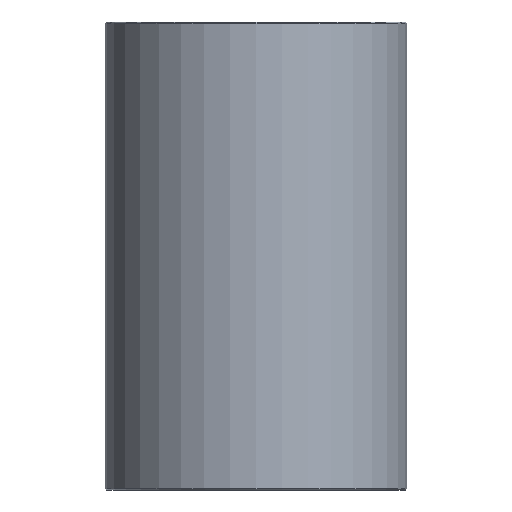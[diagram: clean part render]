
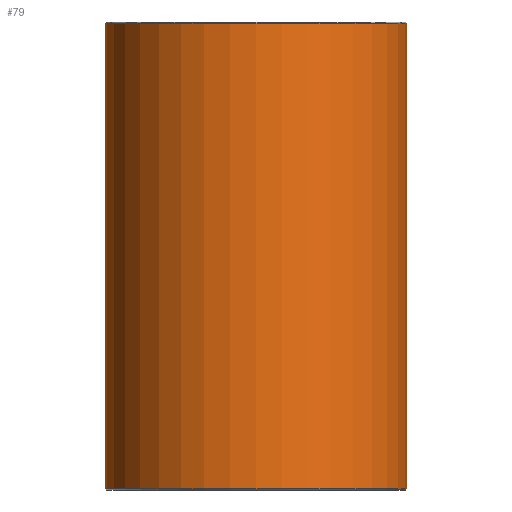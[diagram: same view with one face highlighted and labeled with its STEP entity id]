
A CAD part, front view. The second image highlights one B-rep face of the part: STEP entity #79.
In plain terms, the highlighted cylindrical face has radius 29 mm (diameter 58 mm), a full revolution.
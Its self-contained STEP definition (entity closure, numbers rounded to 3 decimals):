
#79=ADVANCED_FACE('',(#96,#97),#98,.T.);
#96=FACE_OUTER_BOUND('',#120,.T.);
#97=FACE_OUTER_BOUND('',#121,.T.);
#98=CYLINDRICAL_SURFACE('',#122,29.0);
#120=EDGE_LOOP('',(#152));
#121=EDGE_LOOP('',(#153));
#122=AXIS2_PLACEMENT_3D('',#154,#155,#156);
#152=ORIENTED_EDGE('',*,*,#178,.T.);
#153=ORIENTED_EDGE('',*,*,#177,.T.);
#154=CARTESIAN_POINT('',(0.0,0.0,90.0));
#155=DIRECTION('',(0.0,0.0,-1.0));
#156=DIRECTION('',(-1.0,0.0,0.0));
#177=EDGE_CURVE('',#190,#190,#191,.T.);
#178=EDGE_CURVE('',#192,#192,#193,.F.);
#190=VERTEX_POINT('',#206);
#191=CIRCLE('',#207,29.0);
#192=VERTEX_POINT('',#208);
#193=CIRCLE('',#209,29.0);
#206=CARTESIAN_POINT('',(29.0,0.0,0.2));
#207=AXIS2_PLACEMENT_3D('',#227,#228,#229);
#208=CARTESIAN_POINT('',(29.0,0.,89.8));
#209=AXIS2_PLACEMENT_3D('',#230,#231,#232);
#227=CARTESIAN_POINT('',(0.0,0.0,0.2));
#228=DIRECTION('',(0.0,0.0,1.0));
#229=DIRECTION('',(1.0,0.0,0.0));
#230=CARTESIAN_POINT('',(0.0,0.0,89.8));
#231=DIRECTION('',(0.0,0.0,1.0));
#232=DIRECTION('',(1.0,0.0,0.0));
